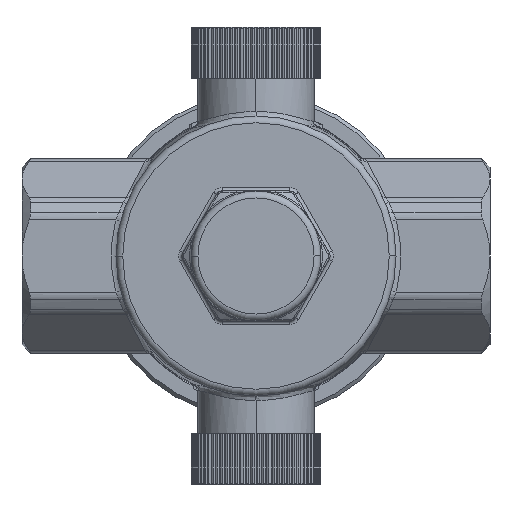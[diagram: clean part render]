
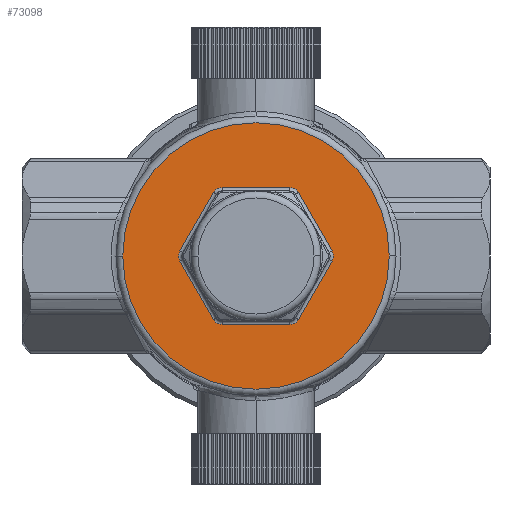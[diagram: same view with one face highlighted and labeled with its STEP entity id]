
A CAD part, front view. The second image highlights one B-rep face of the part: STEP entity #73098.
In plain terms, the highlighted planar face has unit normal (0, -1, 0) as drawn and (0, 1, 0) by its records, which use the part's own axes.
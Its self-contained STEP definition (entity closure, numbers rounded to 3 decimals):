
#71466=CARTESIAN_POINT('',(0.,12.5,0.));
#71467=DIRECTION('',(0.,-1.,0.));
#71468=DIRECTION('',(-1.,0.,0.));
#71469=AXIS2_PLACEMENT_3D('',#71466,#71467,#71468);
#71471=CARTESIAN_POINT('',(0.,12.5,0.));
#71472=DIRECTION('',(0.,-1.,0.));
#71473=DIRECTION('',(1.,0.,0.));
#71474=AXIS2_PLACEMENT_3D('',#71471,#71472,#71473);
#71476=DIRECTION('',(0.5,0.,-0.866));
#71477=VECTOR('',#71476,9.844);
#71478=CARTESIAN_POINT('',(6.221,12.5,9.275));
#71479=LINE('',#71478,#71477);
#71480=DIRECTION('',(-0.5,0.,-0.866));
#71481=VECTOR('',#71480,9.844);
#71482=CARTESIAN_POINT('',(11.143,12.5,-0.75));
#71483=LINE('',#71482,#71481);
#71484=CARTESIAN_POINT('',(4.922,12.5,-8.525));
#71485=DIRECTION('',(0.,1.,0.));
#71486=DIRECTION('',(0.866,0.,-0.5));
#71487=AXIS2_PLACEMENT_3D('',#71484,#71485,#71486);
#71489=DIRECTION('',(-1.,0.,0.));
#71490=VECTOR('',#71489,9.844);
#71491=CARTESIAN_POINT('',(4.922,12.5,-10.025));
#71492=LINE('',#71491,#71490);
#71493=CARTESIAN_POINT('',(-4.922,12.5,-8.525));
#71494=DIRECTION('',(0.,1.,0.));
#71495=DIRECTION('',(0.,0.,-1.));
#71496=AXIS2_PLACEMENT_3D('',#71493,#71494,#71495);
#71498=DIRECTION('',(-0.5,0.,0.866));
#71499=VECTOR('',#71498,9.844);
#71500=CARTESIAN_POINT('',(-6.221,12.5,-9.275));
#71501=LINE('',#71500,#71499);
#71502=DIRECTION('',(0.5,0.,0.866));
#71503=VECTOR('',#71502,9.844);
#71504=CARTESIAN_POINT('',(-11.143,12.5,0.75));
#71505=LINE('',#71504,#71503);
#71506=CARTESIAN_POINT('',(-4.922,12.5,8.525));
#71507=DIRECTION('',(0.,1.,0.));
#71508=DIRECTION('',(-0.866,0.,0.5));
#71509=AXIS2_PLACEMENT_3D('',#71506,#71507,#71508);
#71511=DIRECTION('',(1.,0.,0.));
#71512=VECTOR('',#71511,9.844);
#71513=CARTESIAN_POINT('',(-4.922,12.5,10.025));
#71514=LINE('',#71513,#71512);
#71515=CARTESIAN_POINT('',(4.922,12.5,8.525));
#71516=DIRECTION('',(0.,1.,0.));
#71517=DIRECTION('',(0.,0.,1.));
#71518=AXIS2_PLACEMENT_3D('',#71515,#71516,#71517);
#71535=CARTESIAN_POINT('',(9.844,12.5,0.));
#71536=DIRECTION('',(0.,-1.,0.));
#71537=DIRECTION('',(0.866,0.,-0.5));
#71538=AXIS2_PLACEMENT_3D('',#71535,#71536,#71537);
#71683=CARTESIAN_POINT('',(-9.844,12.5,0.));
#71684=DIRECTION('',(0.,-1.,0.));
#71685=DIRECTION('',(-0.866,0.,0.5));
#71686=AXIS2_PLACEMENT_3D('',#71683,#71684,#71685);
#72593=CARTESIAN_POINT('',(-19.5,12.5,0.));
#72594=CARTESIAN_POINT('',(19.5,12.5,0.));
#72595=VERTEX_POINT('',#72593);
#72596=VERTEX_POINT('',#72594);
#72695=CARTESIAN_POINT('',(6.221,12.5,-9.275));
#72696=CARTESIAN_POINT('',(4.922,12.5,-10.025));
#72697=VERTEX_POINT('',#72695);
#72698=VERTEX_POINT('',#72696);
#72703=CARTESIAN_POINT('',(-4.922,12.5,-10.025));
#72704=VERTEX_POINT('',#72703);
#72707=CARTESIAN_POINT('',(-6.221,12.5,-9.275));
#72708=VERTEX_POINT('',#72707);
#72711=CARTESIAN_POINT('',(4.922,12.5,10.025));
#72712=CARTESIAN_POINT('',(6.221,12.5,9.275));
#72713=VERTEX_POINT('',#72711);
#72714=VERTEX_POINT('',#72712);
#72719=CARTESIAN_POINT('',(-4.922,12.5,10.025));
#72720=VERTEX_POINT('',#72719);
#72723=CARTESIAN_POINT('',(-6.221,12.5,9.275));
#72724=VERTEX_POINT('',#72723);
#72727=CARTESIAN_POINT('',(-11.143,12.5,0.75));
#72728=VERTEX_POINT('',#72727);
#72729=CARTESIAN_POINT('',(-11.143,12.5,-0.75));
#72730=VERTEX_POINT('',#72729);
#72731=CARTESIAN_POINT('',(11.143,12.5,-0.75));
#72732=VERTEX_POINT('',#72731);
#72733=CARTESIAN_POINT('',(11.143,12.5,0.75));
#72734=VERTEX_POINT('',#72733);
#73063=CARTESIAN_POINT('',(0.,12.5,0.));
#73064=DIRECTION('',(0.,1.,0.));
#73065=DIRECTION('',(1.,0.,0.));
#73066=AXIS2_PLACEMENT_3D('',#73063,#73064,#73065);
#73067=PLANE('',#73066);
#73068=ORIENTED_EDGE('',*,*,#73045,.T.);
#73069=ORIENTED_EDGE('',*,*,#73030,.T.);
#73070=EDGE_LOOP('',(#73068,#73069));
#73071=FACE_OUTER_BOUND('',#73070,.F.);
#73073=ORIENTED_EDGE('',*,*,#73072,.T.);
#73075=ORIENTED_EDGE('',*,*,#73074,.F.);
#73077=ORIENTED_EDGE('',*,*,#73076,.T.);
#73079=ORIENTED_EDGE('',*,*,#73078,.T.);
#73081=ORIENTED_EDGE('',*,*,#73080,.T.);
#73083=ORIENTED_EDGE('',*,*,#73082,.T.);
#73085=ORIENTED_EDGE('',*,*,#73084,.T.);
#73087=ORIENTED_EDGE('',*,*,#73086,.F.);
#73089=ORIENTED_EDGE('',*,*,#73088,.T.);
#73091=ORIENTED_EDGE('',*,*,#73090,.T.);
#73093=ORIENTED_EDGE('',*,*,#73092,.T.);
#73095=ORIENTED_EDGE('',*,*,#73094,.T.);
#73096=EDGE_LOOP('',(#73073,#73075,#73077,#73079,#73081,#73083,#73085,#73087,
#73089,#73091,#73093,#73095));
#73097=FACE_BOUND('',#73096,.F.);
#73098=ADVANCED_FACE('',(#73071,#73097),#73067,.T.);
#71470=CIRCLE('',#71469,19.5);
#71475=CIRCLE('',#71474,19.5);
#71488=CIRCLE('',#71487,1.5);
#71497=CIRCLE('',#71496,1.5);
#71510=CIRCLE('',#71509,1.5);
#71519=CIRCLE('',#71518,1.5);
#71539=CIRCLE('',#71538,1.5);
#71687=CIRCLE('',#71686,1.5);
#73030=EDGE_CURVE('',#72596,#72595,#71475,.T.);
#73045=EDGE_CURVE('',#72595,#72596,#71470,.T.);
#73072=EDGE_CURVE('',#72714,#72734,#71479,.T.);
#73074=EDGE_CURVE('',#72732,#72734,#71539,.T.);
#73076=EDGE_CURVE('',#72732,#72697,#71483,.T.);
#73078=EDGE_CURVE('',#72697,#72698,#71488,.T.);
#73080=EDGE_CURVE('',#72698,#72704,#71492,.T.);
#73082=EDGE_CURVE('',#72704,#72708,#71497,.T.);
#73084=EDGE_CURVE('',#72708,#72730,#71501,.T.);
#73086=EDGE_CURVE('',#72728,#72730,#71687,.T.);
#73088=EDGE_CURVE('',#72728,#72724,#71505,.T.);
#73090=EDGE_CURVE('',#72724,#72720,#71510,.T.);
#73092=EDGE_CURVE('',#72720,#72713,#71514,.T.);
#73094=EDGE_CURVE('',#72713,#72714,#71519,.T.);
